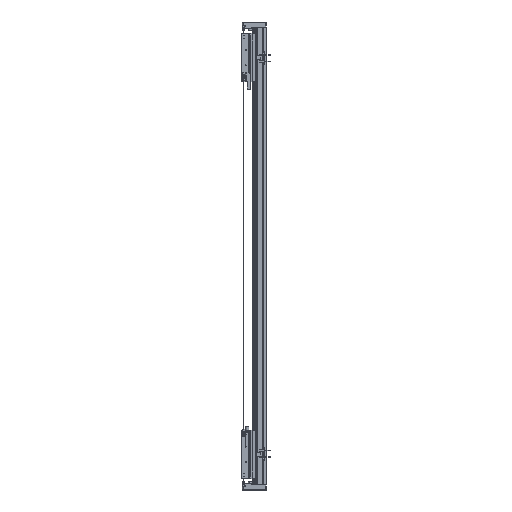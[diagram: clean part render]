
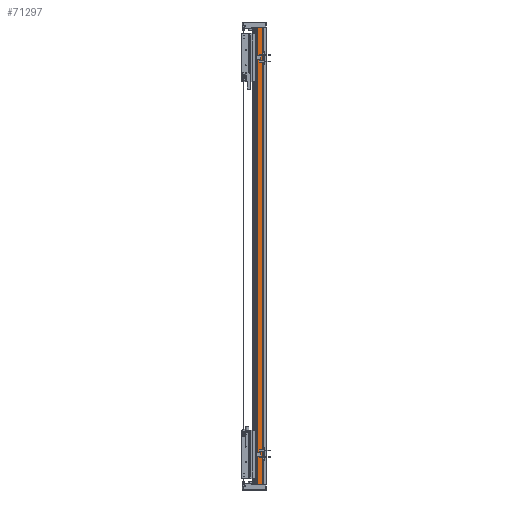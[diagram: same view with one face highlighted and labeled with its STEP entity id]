
A CAD part, left-side view. The second image highlights one B-rep face of the part: STEP entity #71297.
In plain terms, the highlighted planar face has unit normal (-1, 0, 0).
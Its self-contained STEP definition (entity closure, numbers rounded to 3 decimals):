
#5392 = LINE ( 'NONE', #48816, #46475 ) ;
#11672 = CARTESIAN_POINT ( 'NONE',  ( -82.5, 36.95, 900. ) ) ;
#12474 = DIRECTION ( 'NONE',  ( 0., 0., -1. ) ) ;
#16933 = PLANE ( 'NONE',  #32187 ) ;
#22192 = DIRECTION ( 'NONE',  ( 0., -1., 0. ) ) ;
#23323 = LINE ( 'NONE', #59085, #25810 ) ;
#23849 = ORIENTED_EDGE ( 'NONE', *, *, #95927, .T. ) ;
#25810 = VECTOR ( 'NONE', #86106, 1000. ) ;
#27052 = DIRECTION ( 'NONE',  ( 0., -1., 0. ) ) ;
#29407 = EDGE_LOOP ( 'NONE', ( #61071, #82339, #101726, #23849 ) ) ;
#30547 = EDGE_CURVE ( 'NONE', #109682, #90392, #66766, .T. ) ;
#32187 = AXIS2_PLACEMENT_3D ( 'NONE', #89773, #52799, #115043 ) ;
#32857 = VECTOR ( 'NONE', #27052, 1000. ) ;
#35262 = CARTESIAN_POINT ( 'NONE',  ( -82.5, 36.95, -900. ) ) ;
#39440 = EDGE_CURVE ( 'NONE', #90392, #95856, #23323, .T. ) ;
#45315 = CARTESIAN_POINT ( 'NONE',  ( -82.5, 14.45, -900. ) ) ;
#46475 = VECTOR ( 'NONE', #12474, 1000. ) ;
#48816 = CARTESIAN_POINT ( 'NONE',  ( -82.5, 36.95, 900. ) ) ;
#52799 = DIRECTION ( 'NONE',  ( 1., 0., 0. ) ) ;
#53854 = EDGE_CURVE ( 'NONE', #80184, #95856, #61052, .T. ) ;
#59085 = CARTESIAN_POINT ( 'NONE',  ( -82.5, 14.45, 900. ) ) ;
#61052 = LINE ( 'NONE', #35262, #32857 ) ;
#61071 = ORIENTED_EDGE ( 'NONE', *, *, #53854, .T. ) ;
#66766 = LINE ( 'NONE', #11672, #67514 ) ;
#67034 = CARTESIAN_POINT ( 'NONE',  ( -82.5, 14.45, 900. ) ) ;
#67514 = VECTOR ( 'NONE', #22192, 1000. ) ;
#71297 = ADVANCED_FACE ( 'NONE', ( #80969 ), #16933, .F. ) ;
#76076 = CARTESIAN_POINT ( 'NONE',  ( -82.5, 36.95, -900. ) ) ;
#76085 = CARTESIAN_POINT ( 'NONE',  ( -82.5, 36.95, 900. ) ) ;
#80184 = VERTEX_POINT ( 'NONE', #76076 ) ;
#80969 = FACE_OUTER_BOUND ( 'NONE', #29407, .T. ) ;
#82339 = ORIENTED_EDGE ( 'NONE', *, *, #39440, .F. ) ;
#86106 = DIRECTION ( 'NONE',  ( 0., 0., -1. ) ) ;
#89773 = CARTESIAN_POINT ( 'NONE',  ( -82.5, 36.95, 900. ) ) ;
#90392 = VERTEX_POINT ( 'NONE', #67034 ) ;
#95856 = VERTEX_POINT ( 'NONE', #45315 ) ;
#95927 = EDGE_CURVE ( 'NONE', #109682, #80184, #5392, .T. ) ;
#101726 = ORIENTED_EDGE ( 'NONE', *, *, #30547, .F. ) ;
#109682 = VERTEX_POINT ( 'NONE', #76085 ) ;
#115043 = DIRECTION ( 'NONE',  ( 0., 1., 0. ) ) ;
